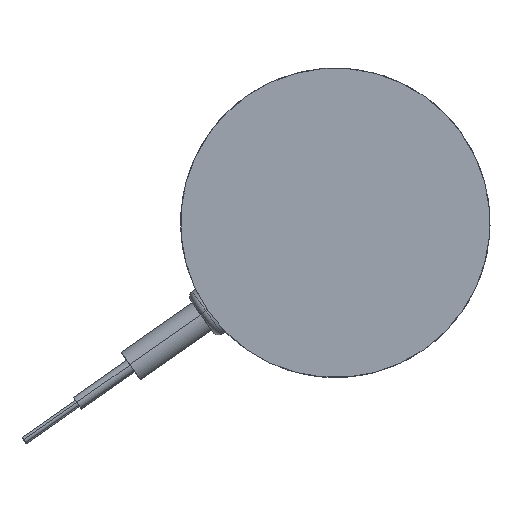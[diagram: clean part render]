
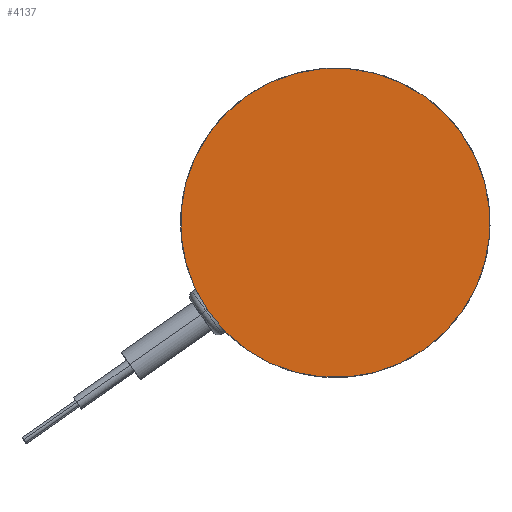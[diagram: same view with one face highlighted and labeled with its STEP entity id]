
A CAD part, left-side view. The second image highlights one B-rep face of the part: STEP entity #4137.
In plain terms, the highlighted planar face has unit normal (-1, 0, 0).
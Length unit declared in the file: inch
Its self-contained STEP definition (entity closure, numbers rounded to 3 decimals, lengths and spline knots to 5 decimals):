
#203 = DIRECTION ( 'NONE',  ( 1., 0., 0. ) ) ;
#229 = AXIS2_PLACEMENT_3D ( 'NONE', #5586, #8118, #1183 ) ;
#290 = CARTESIAN_POINT ( 'NONE',  ( 0., 0., 0. ) ) ;
#581 = AXIS2_PLACEMENT_3D ( 'NONE', #290, #203, #2768 ) ;
#682 = DIRECTION ( 'NONE',  ( 1., 0., 0. ) ) ;
#1173 = ORIENTED_EDGE ( 'NONE', *, *, #4904, .F. ) ;
#1183 = DIRECTION ( 'NONE',  ( 0., -0.707, 0.707 ) ) ;
#1275 = CARTESIAN_POINT ( 'NONE',  ( 0., 0., 0. ) ) ;
#1478 = CARTESIAN_POINT ( 'NONE',  ( 0., 0.50458, -0.50458 ) ) ;
#1886 = DIRECTION ( 'NONE',  ( 0., -0.707, 0.707 ) ) ;
#2768 = DIRECTION ( 'NONE',  ( 0., -0.707, 0.707 ) ) ;
#3843 = ORIENTED_EDGE ( 'NONE', *, *, #4509, .F. ) ;
#3885 = FACE_OUTER_BOUND ( 'NONE', #7736, .T. ) ;
#3945 = VERTEX_POINT ( 'NONE', #7683 ) ;
#4137 = ADVANCED_FACE ( 'NONE', ( #3885 ), #7600, .F. ) ;
#4509 = EDGE_CURVE ( 'NONE', #5343, #3945, #7064, .T. ) ;
#4904 = EDGE_CURVE ( 'NONE', #3945, #5343, #7172, .T. ) ;
#5343 = VERTEX_POINT ( 'NONE', #1478 ) ;
#5586 = CARTESIAN_POINT ( 'NONE',  ( 0., 0., 0. ) ) ;
#7064 = CIRCLE ( 'NONE', #581, 0.71358 ) ;
#7172 = CIRCLE ( 'NONE', #229, 0.71358 ) ;
#7596 = AXIS2_PLACEMENT_3D ( 'NONE', #1275, #682, #1886 ) ;
#7600 = PLANE ( 'NONE',  #7596 ) ;
#7683 = CARTESIAN_POINT ( 'NONE',  ( 0., -0.50458, 0.50458 ) ) ;
#7736 = EDGE_LOOP ( 'NONE', ( #3843, #1173 ) ) ;
#8118 = DIRECTION ( 'NONE',  ( 1., 0., 0. ) ) ;
